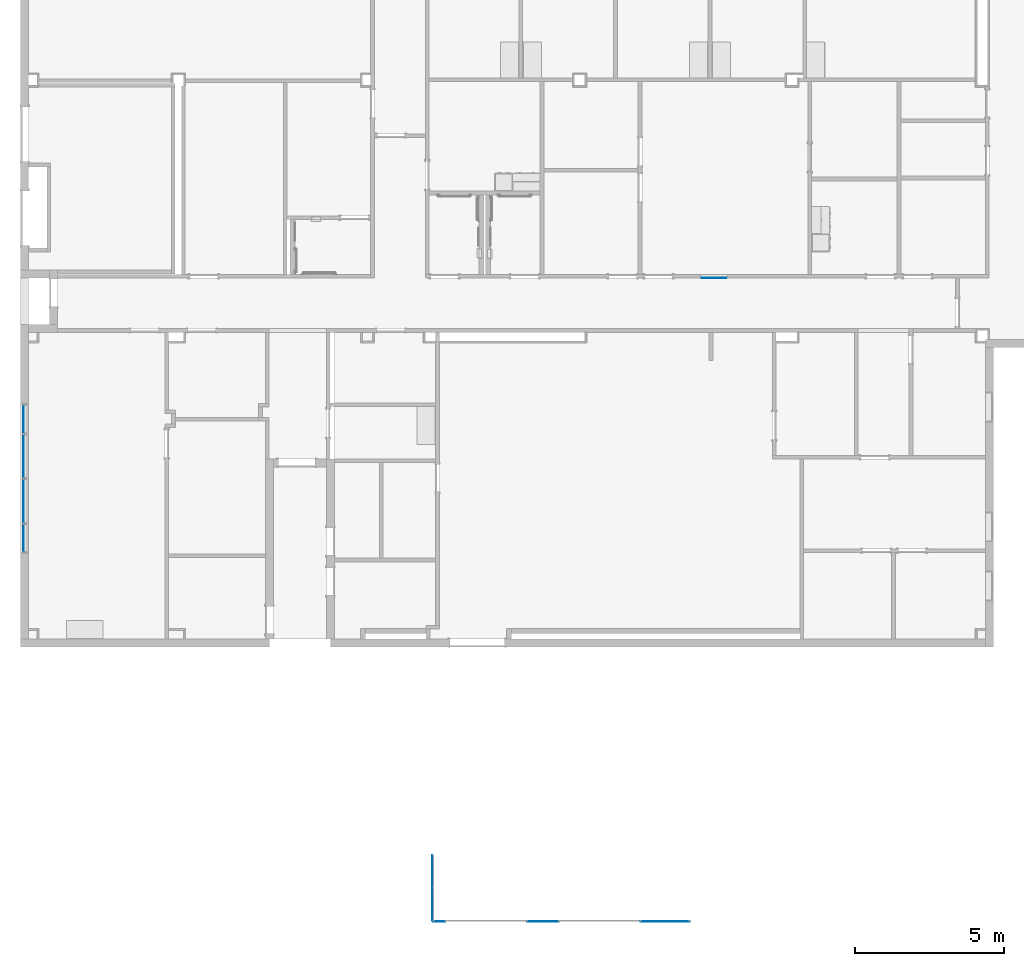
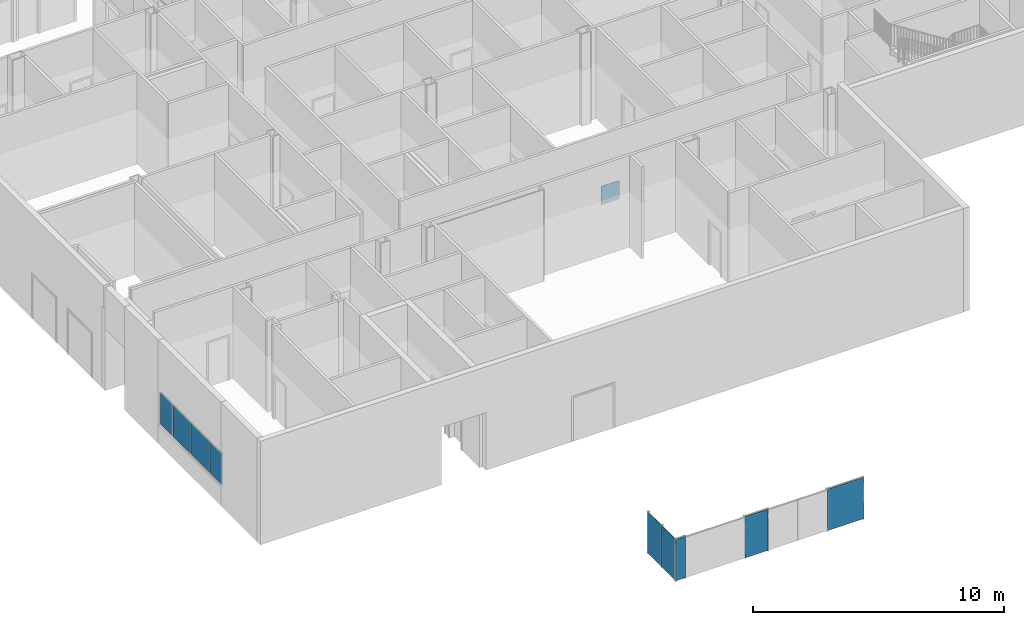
# One storey, part 14 of 82: 10 plates, 4 elements without a shape of their own.
"""IFC2X3 building model written with IfcOpenShell, lengths in metres."""

from ifc_helpers import new_model, entity, si_unit, converted_unit, frame, origin, origin_2d_with_axis, place, context, project, spatial, rectangle, extrude, source, transform, mapped, material, type_object, type_shapes, element, aggregate, save


model = new_model("IFC2X3")

# Units and contexts
model_context = context("Model", 3, precision=1e-09, world=origin())
plan_context = context("Plan", 3, precision=1e-09, world=origin())
ifc_project = project(units=[si_unit("LENGTHUNIT", "METRE"), si_unit("AREAUNIT", "SQUARE_METRE"), si_unit("VOLUMEUNIT", "CUBIC_METRE"), converted_unit("PLANEANGLEUNIT", "DEGREE", entity("IfcRatioMeasure", 0.01745329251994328), si_unit("PLANEANGLEUNIT", "RADIAN"), dimensions=[0, 0, 0, 0, 0, 0, 0]), si_unit("TIMEUNIT", "SECOND")], contexts=[model_context, plan_context])

# Site, building, storey
site_placement = place(None, origin())
site = spatial("IfcSite", under=ifc_project, at=site_placement, Name="Default", CompositionType="ELEMENT")
building_placement = place(site_placement, origin())
building = spatial("IfcBuilding", under=site, at=building_placement, CompositionType="ELEMENT")
storey_placement = place(building_placement, origin())
storey = spatial("IfcBuildingStorey", under=building, at=storey_placement, Name="First Floor", CompositionType="ELEMENT", Elevation=-3.531500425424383e-13)

# Curtain wall, plates
curtain_wall_1_placement = place(storey_placement, origin())
curtain_wall_1 = element("IfcCurtainWall", 1, at=curtain_wall_1_placement, inside=storey, Name="Curtain Wall:Storefront", ObjectType="Curtain Wall:Storefront")
ifc_material_1 = material(Name="Glass")
plate_type_1 = type_object("IfcPlateType", Name="Glazed", PredefinedType="CURTAIN_PANEL")
shared_shape_1 = source(origin(), model_context, "Body", "SweptSolid", [
    extrude(rectangle(XDim=0.025, YDim=0.9249999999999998, at=origin_2d_with_axis()), frame((0.0, 0.03700000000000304, 0.0), z_axis=(0.0, 0.0, 1.0), x_axis=(0.0, 1.0, 0.0)), (0.0, 0.0, 1.0), 1.535),
])
type_shapes(plate_type_1, [shared_shape_1])
plate_1_placement = place(storey_placement, frame((-52.14650000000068, 7.247499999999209, 0.9550000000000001), z_axis=(0.0, 0.0, 1.0), x_axis=(0.0, 1.0, 0.0)))
plate_1 = element("IfcPlate", 2, at=plate_1_placement, type_object=plate_type_1, material=ifc_material_1, Name="System Panel:Glazed:Glazed", ObjectType="Glazed", context=model_context, shape_type="MappedRepresentation", body=[
    mapped(shared_shape_1, transform((0.0, 0.0, 0.0), scale=1.0)),
])
plate_2_placement = place(storey_placement, frame((-52.14650000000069, 3.271986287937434, 0.9550000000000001), z_axis=(0.0, 0.0, 1.0), x_axis=(0.0, 1.0, 0.0)))
plate_2 = element("IfcPlate", 3, at=plate_2_placement, type_object=plate_type_1, material=ifc_material_1, Name="System Panel:Glazed:Glazed", ObjectType="Glazed", context=model_context, shape_type="MappedRepresentation", body=[
    mapped(shared_shape_1, transform((0.0, 0.0, 0.0), scale=1.0)),
])

curtain_wall_2_placement = place(storey_placement, origin())
curtain_wall_2 = element("IfcCurtainWall", 4, at=curtain_wall_2_placement, inside=storey, Name="Curtain Wall:Chain Link Fence", ObjectType="Curtain Wall:Chain Link Fence")
ifc_material_2 = material(Name="Metal - Chain Link")
plate_type_2 = type_object("IfcPlateType", Name="Chain Link Fence Panel", PredefinedType="CURTAIN_PANEL")
shared_shape_2 = source(origin(), model_context, "Body", "SweptSolid", [
    extrude(rectangle(XDim=0.008, YDim=1.1, at=origin_2d_with_axis()), frame((0.0, 0.02499999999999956, 0.0), z_axis=(0.0, 0.0, 1.0), x_axis=(0.0, 1.0, 0.0)), (0.0, 0.0, 1.0), 2.0),
])
type_shapes(plate_type_2, [shared_shape_2])
placement = place(building_placement, frame((0.0, 0.0, -1.0)))
plate_3_placement = place(placement, frame((-38.4617382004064, -9.004161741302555, 0.0), z_axis=(0.0, 0.0, 1.0), x_axis=(0.0, 1.0, 0.0)))
plate_3 = element("IfcPlate", 5, at=plate_3_placement, type_object=plate_type_2, material=ifc_material_2, Name="System Panel:Chain Link Fence Panel:Chain Link Fence Panel", ObjectType="Chain Link Fence Panel", context=model_context, shape_type="MappedRepresentation", body=[
    mapped(shared_shape_2, transform((0.0, 0.0, 0.0), scale=1.0)),
])
plate_4_placement = place(placement, frame((-38.46173820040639, -7.904161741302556, 0.0), z_axis=(0.0, 0.0, 1.0), x_axis=(0.0, 1.0, 0.0)))
plate_4 = element("IfcPlate", 6, at=plate_4_placement, type_object=plate_type_2, material=ifc_material_2, Name="System Panel:Chain Link Fence Panel:Chain Link Fence Panel", ObjectType="Chain Link Fence Panel", context=model_context, shape_type="MappedRepresentation", body=[
    mapped(shared_shape_2, transform((0.0, 0.0, 0.0), scale=1.0)),
])
aggregate(curtain_wall_2, [plate_3, plate_4])

# Plate
plate_type_3 = type_object("IfcPlateType", Name="Glazed", PredefinedType="CURTAIN_PANEL")
shared_shape_3 = source(origin(), model_context, "Body", "SweptSolid", [
    extrude(rectangle(XDim=0.025, YDim=1.450256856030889, at=origin_2d_with_axis()), frame((0.0, 0.03700000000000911, 0.0), z_axis=(0.0, 0.0, 1.0), x_axis=(0.0, 1.0, 0.0)), (0.0, 0.0, 1.0), 1.535),
])
type_shapes(plate_type_3, [shared_shape_3])
plate_5_placement = place(storey_placement, frame((-52.14650000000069, 4.509614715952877, 0.9550000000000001), z_axis=(0.0, 0.0, 1.0), x_axis=(0.0, 1.0, 0.0)))
plate_5 = element("IfcPlate", 7, at=plate_5_placement, type_object=plate_type_3, material=ifc_material_1, Name="System Panel:Glazed:Glazed", ObjectType="Glazed", context=model_context, shape_type="MappedRepresentation", body=[
    mapped(shared_shape_3, transform((0.0, 0.0, 0.0), scale=1.0)),
])

plate_6_placement = place(storey_placement, frame((-52.14650000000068, 6.009871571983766, 0.9550000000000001), z_axis=(0.0, 0.0, 1.0), x_axis=(0.0, 1.0, 0.0)))
plate_6 = element("IfcPlate", 8, at=plate_6_placement, type_object=plate_type_3, material=ifc_material_1, Name="System Panel:Glazed:Glazed", ObjectType="Glazed", context=model_context, shape_type="MappedRepresentation", body=[
    mapped(shared_shape_3, transform((0.0, 0.0, 0.0), scale=1.0)),
])

aggregate(curtain_wall_1, [plate_5, plate_1, plate_2, plate_6])

# Curtain wall, plates
curtain_wall_3_placement = place(storey_placement, origin())
curtain_wall_3 = element("IfcCurtainWall", 9, at=curtain_wall_3_placement, inside=storey, Name="Curtain Wall:Chain Link Fence", ObjectType="Curtain Wall:Chain Link Fence")
plate_type_4 = type_object("IfcPlateType", Name="Chain Link Fence Panel", PredefinedType="CURTAIN_PANEL")
shared_shape_4 = source(origin(), model_context, "Body", "SweptSolid", [
    extrude(rectangle(XDim=0.008, YDim=0.4125763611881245, at=origin_2d_with_axis()), frame((0.0, -0.025, 0.0), z_axis=(0.0, 0.0, 1.0), x_axis=(0.0, 1.0, 0.0)), (0.0, 0.0, 1.0), 2.0),
])
type_shapes(plate_type_4, [shared_shape_4])
plate_7_placement = place(placement, frame((-38.25545001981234, -9.554161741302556, 0.0)))
plate_7 = element("IfcPlate", 10, at=plate_7_placement, type_object=plate_type_4, material=ifc_material_2, Name="System Panel:Chain Link Fence Panel:Chain Link Fence Panel", ObjectType="Chain Link Fence Panel", context=model_context, shape_type="MappedRepresentation", body=[
    mapped(shared_shape_4, transform((0.0, 0.0, 0.0), scale=1.0)),
])
plate_type_5 = type_object("IfcPlateType", Name="Chain Link Fence Panel", PredefinedType="CURTAIN_PANEL")
shared_shape_5 = source(origin(), model_context, "Body", "SweptSolid", [
    extrude(rectangle(XDim=0.008, YDim=1.649131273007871, at=origin_2d_with_axis()), frame((0.0, -0.025, 0.0), z_axis=(0.0, 0.0, 1.0), x_axis=(0.0, 1.0, 0.0)), (0.0, 0.0, 1.0), 2.0),
])
type_shapes(plate_type_5, [shared_shape_5])
plate_8_placement = place(placement, frame((-30.68422747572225, -9.55416174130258, 0.0)))
plate_8 = element("IfcPlate", 11, at=plate_8_placement, type_object=plate_type_5, material=ifc_material_2, Name="System Panel:Chain Link Fence Panel:Chain Link Fence Panel", ObjectType="Chain Link Fence Panel", context=model_context, shape_type="MappedRepresentation", body=[
    mapped(shared_shape_5, transform((0.0, 0.0, 0.0), scale=1.0)),
])

# Curtain wall, plate
curtain_wall_4_placement = place(storey_placement, origin())
curtain_wall_4 = element("IfcCurtainWall", 12, at=curtain_wall_4_placement, inside=storey, Name="Curtain Wall:Storefront - Interior", ObjectType="Curtain Wall:Storefront - Interior")
plate_type_6 = type_object("IfcPlateType", Name="Glazed", PredefinedType="CURTAIN_PANEL")
shared_shape_6 = source(origin(), model_context, "Body", "SweptSolid", [
    extrude(rectangle(XDim=0.02500000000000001, YDim=0.8150000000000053, at=origin_2d_with_axis()), frame((0.0, -0.037, 0.0), z_axis=(0.0, 0.0, 1.0), x_axis=(0.0, 1.0, 0.0)), (0.0, 0.0, 1.0), 0.8999999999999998),
])
type_shapes(plate_type_6, [shared_shape_6])
plate_9_placement = place(storey_placement, frame((-29.05130000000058, 12.01999999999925, 1.05)))
plate_9 = element("IfcPlate", 13, at=plate_9_placement, type_object=plate_type_6, material=ifc_material_1, Name="System Panel:Glazed:Glazed", ObjectType="Glazed", context=model_context, shape_type="MappedRepresentation", body=[
    mapped(shared_shape_6, transform((0.0, 0.0, 0.0), scale=1.0)),
])
aggregate(curtain_wall_4, [plate_9])

# Plate
plate_type_7 = type_object("IfcPlateType", Name="Chain Link Fence Panel", PredefinedType="CURTAIN_PANEL")
shared_shape_7 = source(origin(), model_context, "Body", "SweptSolid", [
    extrude(rectangle(XDim=0.008, YDim=1.060368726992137, at=origin_2d_with_axis()), frame((0.0, -0.025, 0.0), z_axis=(0.0, 0.0, 1.0), x_axis=(0.0, 1.0, 0.0)), (0.0, 0.0, 1.0), 2.0),
])
type_shapes(plate_type_7, [shared_shape_7])
plate_10_placement = place(placement, frame((-34.77897747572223, -9.554161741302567, 0.0)))
plate_10 = element("IfcPlate", 14, at=plate_10_placement, type_object=plate_type_7, material=ifc_material_2, Name="System Panel:Chain Link Fence Panel:Chain Link Fence Panel", ObjectType="Chain Link Fence Panel", context=model_context, shape_type="MappedRepresentation", body=[
    mapped(shared_shape_7, transform((0.0, 0.0, 0.0), scale=1.0)),
])

aggregate(curtain_wall_3, [plate_7, plate_10, plate_8])

save(model, "model.ifc")
